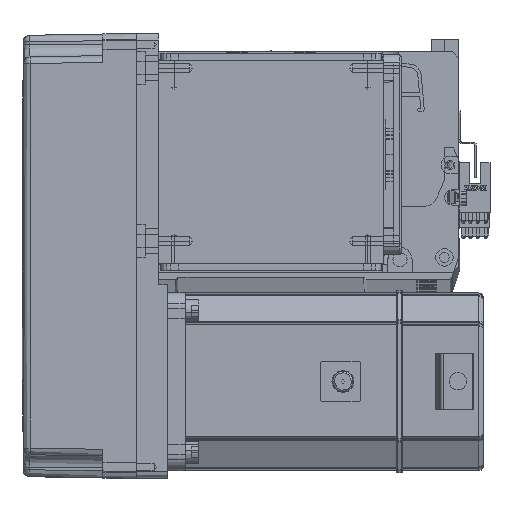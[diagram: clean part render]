
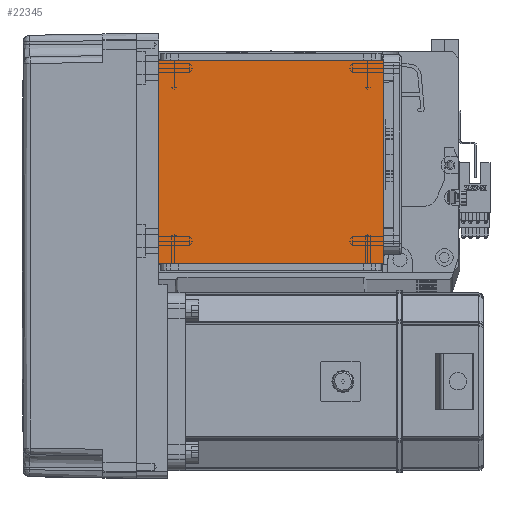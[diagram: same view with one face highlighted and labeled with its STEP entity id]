
A CAD part, top view. The second image highlights one B-rep face of the part: STEP entity #22345.
In plain terms, the highlighted planar face has unit normal (0, 0, 1).
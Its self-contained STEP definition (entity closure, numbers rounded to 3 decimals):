
#917 = CARTESIAN_POINT ( 'NONE',  ( 50.5, 20., 115. ) ) ;
#1273 = CARTESIAN_POINT ( 'NONE',  ( 50.5, 122., 115. ) ) ;
#1837 = DIRECTION ( 'NONE',  ( 0., -1., 0. ) ) ;
#3555 = CARTESIAN_POINT ( 'NONE',  ( -70.004, 111.5, 115. ) ) ;
#3714 = CARTESIAN_POINT ( 'NONE',  ( 50.5, 111.5, 115. ) ) ;
#4922 = DIRECTION ( 'NONE',  ( 1., 0., 0. ) ) ;
#7159 = LINE ( 'NONE', #7260, #17352 ) ;
#7260 = CARTESIAN_POINT ( 'NONE',  ( -50.5, 122., 115. ) ) ;
#9493 = LINE ( 'NONE', #3555, #10312 ) ;
#10307 = ORIENTED_EDGE ( 'NONE', *, *, #37841, .T. ) ;
#10312 = VECTOR ( 'NONE', #52348, 1000. ) ;
#13158 = VECTOR ( 'NONE', #38512, 1000. ) ;
#13824 = DIRECTION ( 'NONE',  ( 0., 1., 0. ) ) ;
#14509 = VECTOR ( 'NONE', #13824, 1000. ) ;
#15608 = PLANE ( 'NONE',  #18498 ) ;
#17352 = VECTOR ( 'NONE', #1837, 1000. ) ;
#17500 = LINE ( 'NONE', #49490, #13158 ) ;
#18498 = AXIS2_PLACEMENT_3D ( 'NONE', #26568, #37532, #4922 ) ;
#19278 = VERTEX_POINT ( 'NONE', #3714 ) ;
#22345 = ADVANCED_FACE ( 'NONE', ( #35394 ), #15608, .T. ) ;
#23390 = VERTEX_POINT ( 'NONE', #917 ) ;
#25800 = ORIENTED_EDGE ( 'NONE', *, *, #67663, .T. ) ;
#26568 = CARTESIAN_POINT ( 'NONE',  ( 0., 0., 115. ) ) ;
#31574 = LINE ( 'NONE', #1273, #14509 ) ;
#35265 = EDGE_LOOP ( 'NONE', ( #60841, #10307, #40436, #25800 ) ) ;
#35394 = FACE_OUTER_BOUND ( 'NONE', #35265, .T. ) ;
#36041 = VERTEX_POINT ( 'NONE', #58518 ) ;
#37532 = DIRECTION ( 'NONE',  ( 0., 0., 1. ) ) ;
#37841 = EDGE_CURVE ( 'NONE', #44120, #36041, #7159, .T. ) ;
#37978 = CARTESIAN_POINT ( 'NONE',  ( -50.5, 111.5, 115. ) ) ;
#38512 = DIRECTION ( 'NONE',  ( -1., 0., 0. ) ) ;
#40436 = ORIENTED_EDGE ( 'NONE', *, *, #62959, .F. ) ;
#44120 = VERTEX_POINT ( 'NONE', #37978 ) ;
#49490 = CARTESIAN_POINT ( 'NONE',  ( -70.004, 20., 115. ) ) ;
#52348 = DIRECTION ( 'NONE',  ( 1., 0., 0. ) ) ;
#58518 = CARTESIAN_POINT ( 'NONE',  ( -50.5, 20., 115. ) ) ;
#58665 = EDGE_CURVE ( 'NONE', #44120, #19278, #9493, .T. ) ;
#60841 = ORIENTED_EDGE ( 'NONE', *, *, #58665, .F. ) ;
#62959 = EDGE_CURVE ( 'NONE', #23390, #36041, #17500, .T. ) ;
#67663 = EDGE_CURVE ( 'NONE', #23390, #19278, #31574, .T. ) ;
